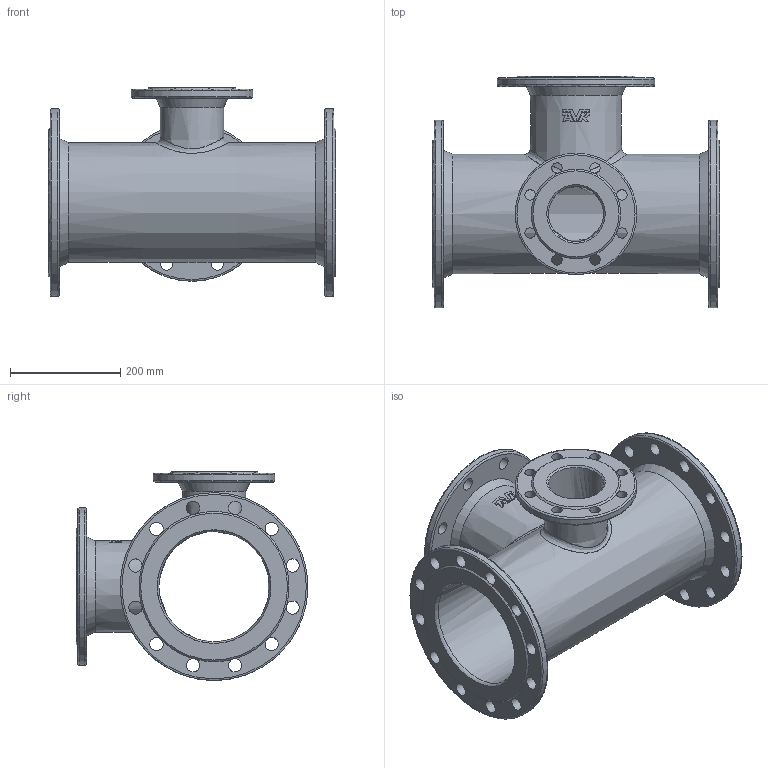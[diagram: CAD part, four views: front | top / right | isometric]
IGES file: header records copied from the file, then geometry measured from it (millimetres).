
Start section: SolidWorks IGES file using analytic representation for surfaces
Global section: file name: \\avksan2\techshare\PBM outline export from Enovia\O_712_1110_DN150_DN200_1_AA1.igs; native system: SolidWorks 2012; preprocessor: SolidWorks 2012; author: pbm; date: 171013.092558; units: millimetre
Bounding box: 520 x 420 x 378.4 mm (x, y, z)
Surface area: 1235426.9 mm2 (no closed solid volume)
Topology: 0 solids, 0 shells, 143 faces, 934 edges, 852 vertices
Faces by surface type: revolution 78, bspline 65
